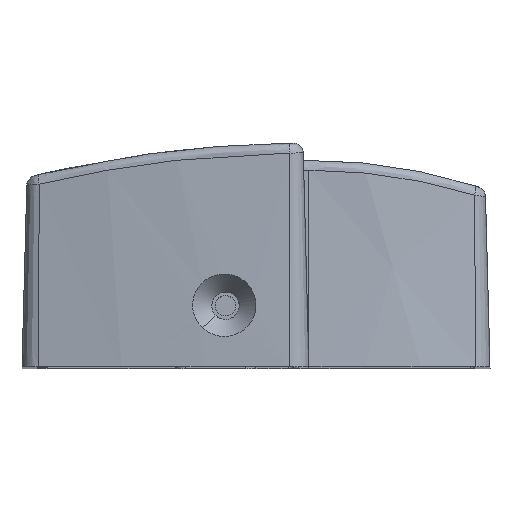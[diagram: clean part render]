
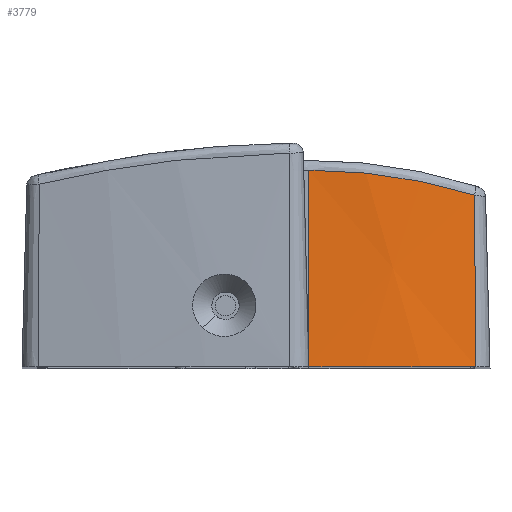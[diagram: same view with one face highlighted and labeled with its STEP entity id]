
A CAD part, top view. The second image highlights one B-rep face of the part: STEP entity #3779.
In plain terms, the highlighted conical face has half-angle 1.5 degrees and reference radius 54.307 mm.
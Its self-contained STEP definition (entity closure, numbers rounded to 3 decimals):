
#34 = ORIENTED_EDGE ( 'NONE', *, *, #10060, .T. ) ;
#49 = ORIENTED_EDGE ( 'NONE', *, *, #10660, .T. ) ;
#54 = B_SPLINE_CURVE_WITH_KNOTS ( 'NONE', 3,
 ( #4289, #8181, #9227, #12150, #8052, #3259, #6108, #11096, #8244, #7092 ),
 .UNSPECIFIED., .F., .F.,
 ( 4, 2, 2, 2, 4 ),
 ( 0., 0.008, 0.012, 0.015, 0.017 ),
 .UNSPECIFIED. ) ;
#310 = VECTOR ( 'NONE', #1343, 1000. ) ;
#377 = DIRECTION ( 'NONE',  ( 0., 0., 1. ) ) ;
#440 = DIRECTION ( 'NONE',  ( 0., -1., 0. ) ) ;
#885 = VERTEX_POINT ( 'NONE', #5903 ) ;
#1117 = CONICAL_SURFACE ( 'NONE', #1546, 54.307, 0.026 ) ;
#1343 = DIRECTION ( 'NONE',  ( 0., -1., 0.026 ) ) ;
#1546 = AXIS2_PLACEMENT_3D ( 'NONE', #11341, #440, #377 ) ;
#1879 = ORIENTED_EDGE ( 'NONE', *, *, #10310, .T. ) ;
#2673 = DIRECTION ( 'NONE',  ( 0., 1., 0. ) ) ;
#2812 = CARTESIAN_POINT ( 'NONE',  ( 21.471, 16.878, 55.542 ) ) ;
#2999 = ORIENTED_EDGE ( 'NONE', *, *, #5816, .T. ) ;
#3259 = CARTESIAN_POINT ( 'NONE',  ( 8.712, 19.219, 57.887 ) ) ;
#3602 = VERTEX_POINT ( 'NONE', #2812 ) ;
#3779 = ADVANCED_FACE ( 'NONE', ( #4467 ), #1117, .T. ) ;
#4289 = CARTESIAN_POINT ( 'NONE',  ( 21.471, 16.878, 55.542 ) ) ;
#4467 = FACE_OUTER_BOUND ( 'NONE', #12501, .T. ) ;
#4999 = VERTEX_POINT ( 'NONE', #12795 ) ;
#5057 = CIRCLE ( 'NONE', #7563, 54.307 ) ;
#5816 = EDGE_CURVE ( 'NONE', #3602, #4999, #54, .T. ) ;
#5903 = CARTESIAN_POINT ( 'NONE',  ( 21.604, 0., 55.963 ) ) ;
#6108 = CARTESIAN_POINT ( 'NONE',  ( 8.01, 19.259, 57.927 ) ) ;
#6488 = CARTESIAN_POINT ( 'NONE',  ( 5.2, 0., 4.193 ) ) ;
#7063 = LINE ( 'NONE', #8025, #310 ) ;
#7092 = CARTESIAN_POINT ( 'NONE',  ( 5.2, 19.326, 57.994 ) ) ;
#7242 = CARTESIAN_POINT ( 'NONE',  ( 21.604, 0., 55.963 ) ) ;
#7563 = AXIS2_PLACEMENT_3D ( 'NONE', #6488, #2673, #9477 ) ;
#8025 = CARTESIAN_POINT ( 'NONE',  ( 5.2, 0., 58.5 ) ) ;
#8052 = CARTESIAN_POINT ( 'NONE',  ( 10.803, 19.06, 57.727 ) ) ;
#8181 = CARTESIAN_POINT ( 'NONE',  ( 18.893, 17.672, 56.337 ) ) ;
#8244 = CARTESIAN_POINT ( 'NONE',  ( 5.903, 19.326, 57.994 ) ) ;
#8581 = VERTEX_POINT ( 'NONE', #9927 ) ;
#9227 = CARTESIAN_POINT ( 'NONE',  ( 16.249, 18.281, 56.947 ) ) ;
#9477 = DIRECTION ( 'NONE',  ( 0., 0., 1. ) ) ;
#9843 = VECTOR ( 'NONE', #11181, 1000. ) ;
#9927 = CARTESIAN_POINT ( 'NONE',  ( 5.2, 0., 58.5 ) ) ;
#10017 = LINE ( 'NONE', #7242, #9843 ) ;
#10060 = EDGE_CURVE ( 'NONE', #8581, #885, #5057, .T. ) ;
#10310 = EDGE_CURVE ( 'NONE', #4999, #8581, #7063, .T. ) ;
#10660 = EDGE_CURVE ( 'NONE', #885, #3602, #10017, .T. ) ;
#11096 = CARTESIAN_POINT ( 'NONE',  ( 6.606, 19.313, 57.98 ) ) ;
#11181 = DIRECTION ( 'NONE',  ( -0.008, 1., -0.025 ) ) ;
#11341 = CARTESIAN_POINT ( 'NONE',  ( 5.2, 0., 4.193 ) ) ;
#12150 = CARTESIAN_POINT ( 'NONE',  ( 12.178, 18.902, 57.568 ) ) ;
#12501 = EDGE_LOOP ( 'NONE', ( #2999, #1879, #34, #49 ) ) ;
#12795 = CARTESIAN_POINT ( 'NONE',  ( 5.2, 19.326, 57.994 ) ) ;
